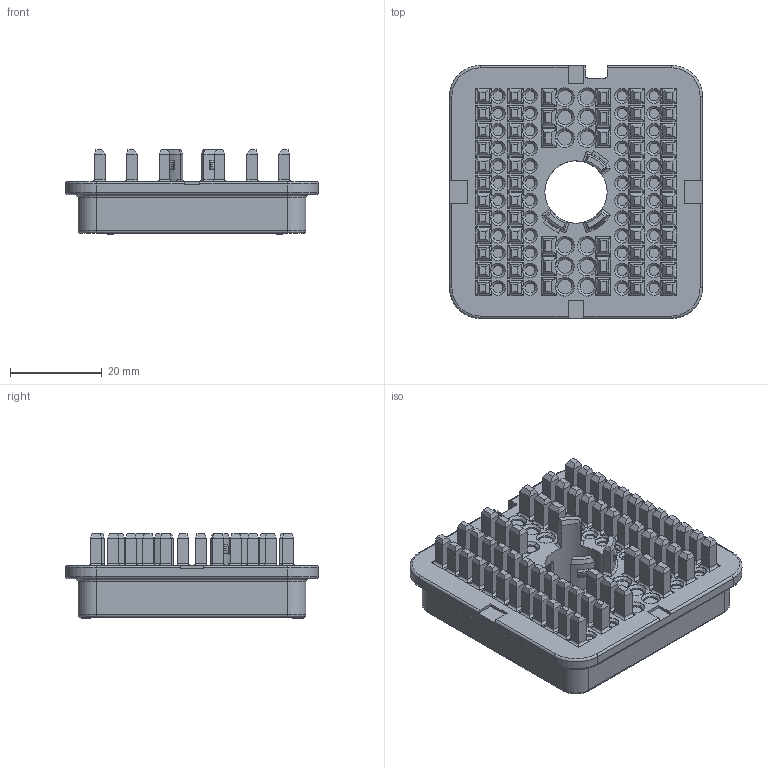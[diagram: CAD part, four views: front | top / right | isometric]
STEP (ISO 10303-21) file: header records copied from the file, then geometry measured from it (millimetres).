
FILE_DESCRIPTION((''),'2;1');
FILE_NAME('C-WB-60SC','2013-03-19T',('workeradm'),('Tyco Electronics Ltd.'),'PRO/ENGINEER BY PARAMETRIC TECHNOLOGY CORPORATION, 2010430','PRO/ENGINEER BY PARAMETRIC TECHNOLOGY CORPORATION, 2010430','');
FILE_SCHEMA(('AUTOMOTIVE_DESIGN { 1 0 10303 214 1 1 1 1 }'));
Length unit declared in the file: millimetre
Products named in the file (1): C-WB-60SC
Bounding box: 55.17 x 55.17 x 18.49 mm (x, y, z)
Volume: 29222.3 mm3; surface area: 12911.9 mm2
Topology: 1 solids, 1 shells, 2014 faces, 4610 edges, 2732 vertices
Faces by surface type: plane 955, cylinder 776, cone 249, torus 30, bspline 2, sphere 2
Entity records: 57484 total; most frequent: CARTESIAN_POINT 12126, DIRECTION 9357, ORIENTED_EDGE 9220, EDGE_CURVE 4610, AXIS2_PLACEMENT_3D 3131, VECTOR 3095, LINE 3095, VERTEX_POINT 2732
